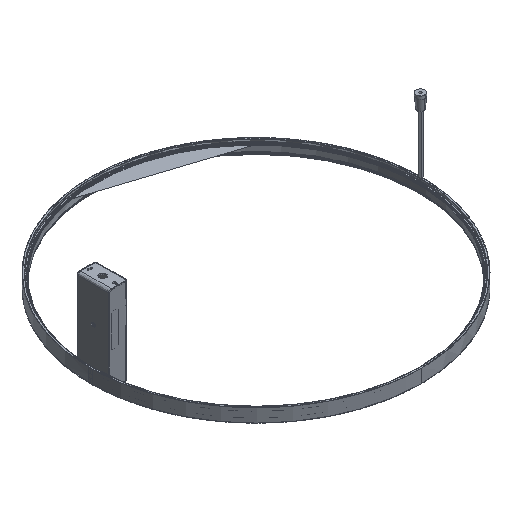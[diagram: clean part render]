
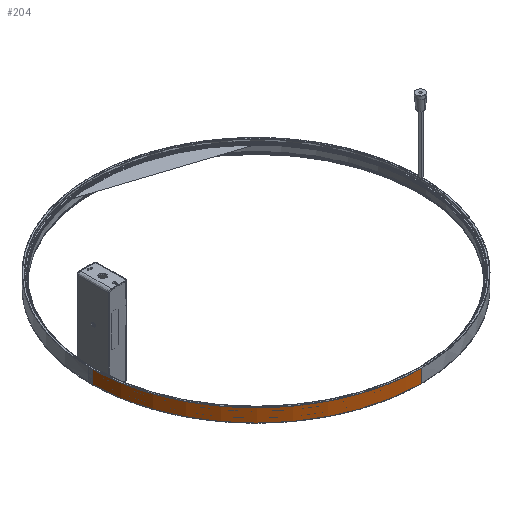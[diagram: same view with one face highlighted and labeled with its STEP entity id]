
A CAD part, isometric view. The second image highlights one B-rep face of the part: STEP entity #204.
In plain terms, the highlighted free-form (B-spline) face has degree [2, 1] with [9, 2] control points.
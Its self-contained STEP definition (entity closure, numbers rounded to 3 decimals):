
#204=ADVANCED_FACE('',(#687),#7267,.T.);
#687=FACE_OUTER_BOUND('',#1170,.T.);
#1170=EDGE_LOOP('',(#2009,#2010,#2011,#2012,#2013,#2014));
#2009=ORIENTED_EDGE('',*,*,#4063,.F.);
#2010=ORIENTED_EDGE('',*,*,#4025,.F.);
#2011=ORIENTED_EDGE('',*,*,#4130,.T.);
#2012=ORIENTED_EDGE('',*,*,#4170,.T.);
#2013=ORIENTED_EDGE('',*,*,#4171,.T.);
#2014=ORIENTED_EDGE('',*,*,#4172,.T.);
#4025=EDGE_CURVE('',#6370,#6364,#5192,.T.);
#4063=EDGE_CURVE('',#6364,#6353,#5695,.T.);
#4130=EDGE_CURVE('',#6370,#6438,#5731,.T.);
#4170=EDGE_CURVE('',#6438,#6467,#5758,.T.);
#4171=EDGE_CURVE('',#6467,#6468,#5759,.T.);
#4172=EDGE_CURVE('',#6468,#6353,#5274,.T.);
#5192=(
BOUNDED_CURVE()
B_SPLINE_CURVE(2,(#13267,#13268,#13269),.UNSPECIFIED.,.F.,.F.)
B_SPLINE_CURVE_WITH_KNOTS((3,3),(0.,579.624),.UNSPECIFIED.)
CURVE()
GEOMETRIC_REPRESENTATION_ITEM()
RATIONAL_B_SPLINE_CURVE((1.,0.707,1.))
REPRESENTATION_ITEM('')
);
#5274=(
BOUNDED_CURVE()
B_SPLINE_CURVE(2,(#13798,#13799,#13800),.UNSPECIFIED.,.F.,.F.)
B_SPLINE_CURVE_WITH_KNOTS((3,3),(0.,579.624),.UNSPECIFIED.)
CURVE()
GEOMETRIC_REPRESENTATION_ITEM()
RATIONAL_B_SPLINE_CURVE((1.,0.707,1.))
REPRESENTATION_ITEM('')
);
#5695=B_SPLINE_CURVE_WITH_KNOTS('',1,(#13399,#13400),.UNSPECIFIED.,.F.,
 .F.,(2,2),(0.,29.6),.UNSPECIFIED.);
#5731=B_SPLINE_CURVE_WITH_KNOTS('',1,(#13642,#13643),.UNSPECIFIED.,.F.,
 .F.,(2,2),(-10.1,0.),.UNSPECIFIED.);
#5758=B_SPLINE_CURVE_WITH_KNOTS('',3,(#13762,#13763,#13764,#13765,#13766,
#13767,#13768,#13769,#13770,#13771,#13772,#13773,#13774,#13775,#13776,#13777,
#13778,#13779,#13780,#13781,#13782,#13783,#13784,#13785,#13786,#13787,#13788,
#13789,#13790,#13791,#13792,#13793,#13794,#13795),.UNSPECIFIED.,.F.,.F.,
(4,2,2,2,2,2,2,2,2,2,2,2,2,2,2,2,4),(0.,0.921,1.843,
2.764,3.686,4.607,5.529,6.45,
7.371,8.293,9.214,10.136,11.057,
11.979,12.9,13.821,14.743),
 .UNSPECIFIED.);
#5759=B_SPLINE_CURVE_WITH_KNOTS('',1,(#13796,#13797),.UNSPECIFIED.,.F.,
 .F.,(2,2),(0.,10.1),.UNSPECIFIED.);
#6353=VERTEX_POINT('',#12876);
#6364=VERTEX_POINT('',#12887);
#6370=VERTEX_POINT('',#12893);
#6438=VERTEX_POINT('',#12961);
#6467=VERTEX_POINT('',#12990);
#6468=VERTEX_POINT('',#12991);
#7267=(
BOUNDED_SURFACE()
B_SPLINE_SURFACE(2,1,((#11525,#11526),(#11527,#11528),(#11529,#11530),(#11531,
#11532),(#11533,#11534),(#11535,#11536),(#11537,#11538),(#11539,#11540),
(#11541,#11542)),.UNSPECIFIED.,.T.,.F.,.F.)
B_SPLINE_SURFACE_WITH_KNOTS((3,2,2,2,3),(2,2),(0.,579.624,1159.248,
1738.872,2318.495),(0.,35.52),.UNSPECIFIED.)
GEOMETRIC_REPRESENTATION_ITEM()
RATIONAL_B_SPLINE_SURFACE(((1.,1.),(0.707,0.707),
(1.,1.),(0.707,0.707),(1.,1.),(0.707,
0.707),(1.,1.),(0.707,0.707),(1.,1.)))
REPRESENTATION_ITEM('')
SURFACE()
);
#11525=CARTESIAN_POINT('',(0.,-17.76,369.));
#11526=CARTESIAN_POINT('',(0.,17.76,369.));
#11527=CARTESIAN_POINT('',(369.,-17.76,369.));
#11528=CARTESIAN_POINT('',(369.,17.76,369.));
#11529=CARTESIAN_POINT('',(369.,-17.76,0.));
#11530=CARTESIAN_POINT('',(369.,17.76,0.));
#11531=CARTESIAN_POINT('',(369.,-17.76,-369.));
#11532=CARTESIAN_POINT('',(369.,17.76,-369.));
#11533=CARTESIAN_POINT('',(0.,-17.76,-369.));
#11534=CARTESIAN_POINT('',(0.,17.76,-369.));
#11535=CARTESIAN_POINT('',(-369.,-17.76,-369.));
#11536=CARTESIAN_POINT('',(-369.,17.76,-369.));
#11537=CARTESIAN_POINT('',(-369.,-17.76,0.));
#11538=CARTESIAN_POINT('',(-369.,17.76,0.));
#11539=CARTESIAN_POINT('',(-369.,-17.76,369.));
#11540=CARTESIAN_POINT('',(-369.,17.76,369.));
#11541=CARTESIAN_POINT('',(0.,-17.76,369.));
#11542=CARTESIAN_POINT('',(0.,17.76,369.));
#12876=CARTESIAN_POINT('',(0.,14.8,-369.));
#12887=CARTESIAN_POINT('',(0.,-14.8,-369.));
#12893=CARTESIAN_POINT('',(-369.,-14.8,0.));
#12961=CARTESIAN_POINT('',(-369.,-4.7,0.));
#12990=CARTESIAN_POINT('',(-369.,4.7,0.));
#12991=CARTESIAN_POINT('',(-369.,14.8,0.));
#13267=CARTESIAN_POINT('',(-369.,-14.8,0.));
#13268=CARTESIAN_POINT('',(-369.,-14.8,-369.));
#13269=CARTESIAN_POINT('',(0.,-14.8,-369.));
#13399=CARTESIAN_POINT('',(0.,-14.8,-369.));
#13400=CARTESIAN_POINT('',(0.,14.8,-369.));
#13642=CARTESIAN_POINT('',(-369.,-14.8,0.));
#13643=CARTESIAN_POINT('',(-369.,-4.7,0.));
#13762=CARTESIAN_POINT('',(-369.,-4.7,0.));
#13763=CARTESIAN_POINT('',(-369.,-4.7,-0.305));
#13764=CARTESIAN_POINT('',(-369.,-4.67,-0.614));
#13765=CARTESIAN_POINT('',(-368.998,-4.548,-1.216));
#13766=CARTESIAN_POINT('',(-368.997,-4.459,-1.508));
#13767=CARTESIAN_POINT('',(-368.994,-4.223,-2.072));
#13768=CARTESIAN_POINT('',(-368.993,-4.075,-2.347));
#13769=CARTESIAN_POINT('',(-368.989,-3.733,-2.855));
#13770=CARTESIAN_POINT('',(-368.987,-3.537,-3.091));
#13771=CARTESIAN_POINT('',(-368.983,-3.098,-3.526));
#13772=CARTESIAN_POINT('',(-368.981,-2.859,-3.719));
#13773=CARTESIAN_POINT('',(-368.978,-2.346,-4.059));
#13774=CARTESIAN_POINT('',(-368.976,-2.071,-4.203));
#13775=CARTESIAN_POINT('',(-368.973,-1.507,-4.434));
#13776=CARTESIAN_POINT('',(-368.972,-1.214,-4.522));
#13777=CARTESIAN_POINT('',(-368.971,-0.608,-4.641));
#13778=CARTESIAN_POINT('',(-368.97,-0.302,-4.671));
#13779=CARTESIAN_POINT('',(-368.97,0.308,-4.67));
#13780=CARTESIAN_POINT('',(-368.971,0.616,-4.64));
#13781=CARTESIAN_POINT('',(-368.972,1.219,-4.521));
#13782=CARTESIAN_POINT('',(-368.973,1.511,-4.433));
#13783=CARTESIAN_POINT('',(-368.976,2.077,-4.201));
#13784=CARTESIAN_POINT('',(-368.978,2.353,-4.055));
#13785=CARTESIAN_POINT('',(-368.981,2.862,-3.717));
#13786=CARTESIAN_POINT('',(-368.983,3.099,-3.524));
#13787=CARTESIAN_POINT('',(-368.987,3.536,-3.092));
#13788=CARTESIAN_POINT('',(-368.989,3.734,-2.853));
#13789=CARTESIAN_POINT('',(-368.993,4.075,-2.347));
#13790=CARTESIAN_POINT('',(-368.994,4.221,-2.076));
#13791=CARTESIAN_POINT('',(-368.997,4.459,-1.507));
#13792=CARTESIAN_POINT('',(-368.998,4.549,-1.215));
#13793=CARTESIAN_POINT('',(-369.,4.669,-0.616));
#13794=CARTESIAN_POINT('',(-369.,4.7,-0.306));
#13795=CARTESIAN_POINT('',(-369.,4.7,0.));
#13796=CARTESIAN_POINT('',(-369.,4.7,0.));
#13797=CARTESIAN_POINT('',(-369.,14.8,0.));
#13798=CARTESIAN_POINT('',(-369.,14.8,0.));
#13799=CARTESIAN_POINT('',(-369.,14.8,-369.));
#13800=CARTESIAN_POINT('',(0.,14.8,-369.));
